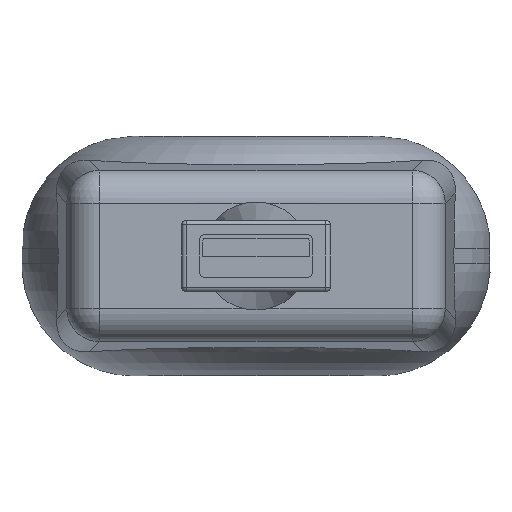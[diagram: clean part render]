
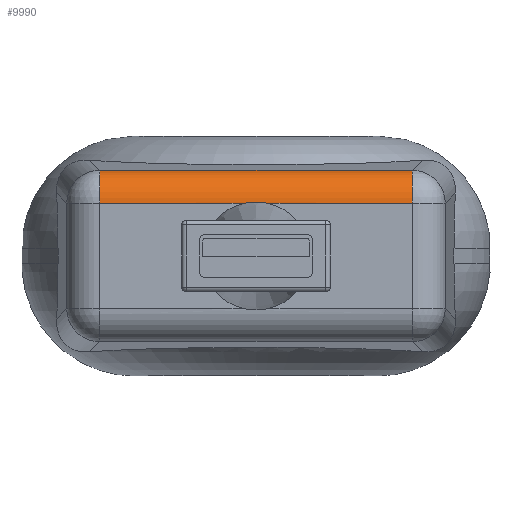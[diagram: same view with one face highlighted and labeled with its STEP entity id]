
A CAD part, left-side view. The second image highlights one B-rep face of the part: STEP entity #9990.
In plain terms, the highlighted cylindrical face has radius 3.5 mm (diameter 7 mm), a partial arc.
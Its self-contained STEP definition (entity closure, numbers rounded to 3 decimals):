
#176=B_SPLINE_CURVE_WITH_KNOTS('',3,(#15953,#15954,#15955,#15956),
 .UNSPECIFIED.,.F.,.F.,(4,4),(0.,1.),.UNSPECIFIED.);
#587=CIRCLE('',#10738,3.5);
#588=CIRCLE('',#10739,3.5);
#677=CYLINDRICAL_SURFACE('',#10737,3.5);
#3003=ORIENTED_EDGE('',*,*,#4353,.F.);
#3004=ORIENTED_EDGE('',*,*,#4354,.T.);
#3005=ORIENTED_EDGE('',*,*,#4352,.F.);
#3006=ORIENTED_EDGE('',*,*,#4355,.F.);
#3007=ORIENTED_EDGE('',*,*,#4356,.F.);
#3008=ORIENTED_EDGE('',*,*,#4357,.T.);
#4352=EDGE_CURVE('',#5200,#5197,#5998,.T.);
#4353=EDGE_CURVE('',#5201,#5202,#5999,.T.);
#4354=EDGE_CURVE('',#5201,#5197,#176,.T.);
#4355=EDGE_CURVE('',#5203,#5200,#587,.T.);
#4356=EDGE_CURVE('',#5204,#5203,#6000,.F.);
#4357=EDGE_CURVE('',#5204,#5202,#588,.T.);
#5197=VERTEX_POINT('',#15942);
#5200=VERTEX_POINT('',#15947);
#5201=VERTEX_POINT('',#15951);
#5202=VERTEX_POINT('',#15952);
#5203=VERTEX_POINT('',#15958);
#5204=VERTEX_POINT('',#15960);
#5998=LINE('',#15948,#6778);
#5999=LINE('',#15950,#6779);
#6000=LINE('',#15959,#6780);
#6778=VECTOR('',#12941,1000.);
#6779=VECTOR('',#12944,1000.);
#6780=VECTOR('',#12947,1000.);
#7259=EDGE_LOOP('',(#3003,#3004,#3005,#3006,#3007,#3008));
#7763=FACE_BOUND('',#7259,.T.);
#9990=ADVANCED_FACE('',(#7763),#677,.T.);
#10737=AXIS2_PLACEMENT_3D('',#15949,#12942,#12943);
#10738=AXIS2_PLACEMENT_3D('',#15957,#12945,#12946);
#10739=AXIS2_PLACEMENT_3D('',#15961,#12948,#12949);
#12941=DIRECTION('',(0.,1.,0.));
#12942=DIRECTION('',(0.,1.,0.));
#12943=DIRECTION('',(0.,0.,1.));
#12944=DIRECTION('',(0.,1.,0.));
#12945=DIRECTION('',(0.,-1.,0.));
#12946=DIRECTION('',(0.,0.,-1.));
#12947=DIRECTION('',(0.,1.,0.));
#12948=DIRECTION('',(0.,-1.,0.));
#12949=DIRECTION('',(1.,0.,0.));
#15942=CARTESIAN_POINT('',(-38.,-1.166,5.62));
#15947=CARTESIAN_POINT('',(-38.,-16.62,5.62));
#15948=CARTESIAN_POINT('',(-38.,16.62,5.62));
#15949=CARTESIAN_POINT('',(-34.5,16.62,5.62));
#15950=CARTESIAN_POINT('',(-38.,16.62,5.62));
#15951=CARTESIAN_POINT('',(-38.,1.166,5.62));
#15952=CARTESIAN_POINT('',(-38.,16.62,5.62));
#15953=CARTESIAN_POINT('',(-38.,1.166,5.62));
#15954=CARTESIAN_POINT('',(-38.,0.398,5.78));
#15955=CARTESIAN_POINT('',(-38.,-0.396,5.78));
#15956=CARTESIAN_POINT('',(-38.,-1.166,5.62));
#15957=CARTESIAN_POINT('',(-34.5,-16.62,5.62));
#15958=CARTESIAN_POINT('',(-34.653,-16.62,9.117));
#15959=CARTESIAN_POINT('',(-34.653,50.,9.117));
#15960=CARTESIAN_POINT('',(-34.653,16.62,9.117));
#15961=CARTESIAN_POINT('',(-34.5,16.62,5.62));
